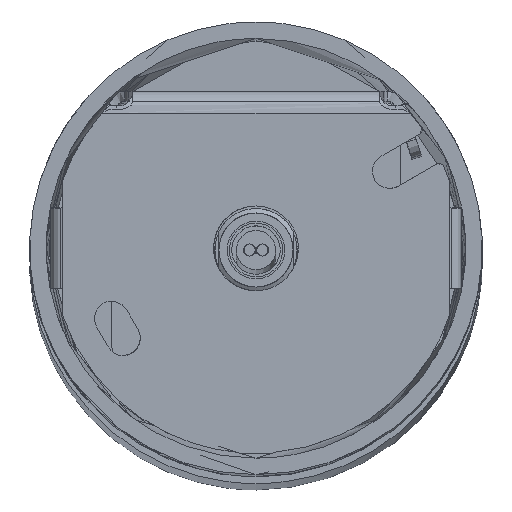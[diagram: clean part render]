
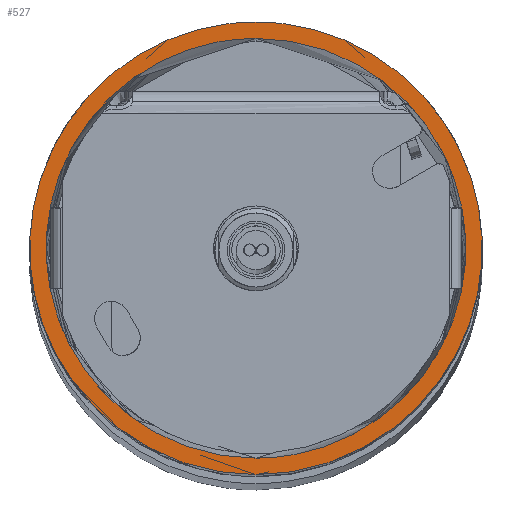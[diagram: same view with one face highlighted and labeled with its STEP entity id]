
A CAD part, top view. The second image highlights one B-rep face of the part: STEP entity #527.
In plain terms, the highlighted planar face has unit normal (0, 0, 1) as drawn and (0, 1, 0) by its records, which use the part's own axes.
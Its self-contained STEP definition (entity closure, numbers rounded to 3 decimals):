
#151=FACE_BOUND('',#1376,.T.);
#527=ADVANCED_FACE('',(#933,#151),#6343,.T.);
#933=FACE_OUTER_BOUND('',#1375,.T.);
#1375=EDGE_LOOP('',(#3285,#3286));
#1376=EDGE_LOOP('',(#3287,#3288));
#3285=ORIENTED_EDGE('',*,*,#4433,.T.);
#3286=ORIENTED_EDGE('',*,*,#4429,.F.);
#3287=ORIENTED_EDGE('',*,*,#4437,.T.);
#3288=ORIENTED_EDGE('',*,*,#4423,.T.);
#4423=EDGE_CURVE('',#6149,#6150,#5499,.T.);
#4429=EDGE_CURVE('',#6153,#6154,#5501,.T.);
#4433=EDGE_CURVE('',#6153,#6154,#5503,.T.);
#4437=EDGE_CURVE('',#6150,#6149,#5505,.T.);
#5499=(
BOUNDED_CURVE()
B_SPLINE_CURVE(2,(#37677,#37678,#37679,#37680,#37681),.UNSPECIFIED.,.F.,
 .F.)
B_SPLINE_CURVE_WITH_KNOTS((3,2,3),(-80.111,-40.055,
0.),.UNSPECIFIED.)
CURVE()
GEOMETRIC_REPRESENTATION_ITEM()
RATIONAL_B_SPLINE_CURVE((1.,0.707,1.,0.707,1.))
REPRESENTATION_ITEM('')
);
#5501=(
BOUNDED_CURVE()
B_SPLINE_CURVE(2,(#37745,#37746,#37747,#37748,#37749),.UNSPECIFIED.,.F.,
 .F.)
B_SPLINE_CURVE_WITH_KNOTS((3,2,3),(0.,43.197,86.394),
 .UNSPECIFIED.)
CURVE()
GEOMETRIC_REPRESENTATION_ITEM()
RATIONAL_B_SPLINE_CURVE((1.,0.707,1.,0.707,1.))
REPRESENTATION_ITEM('')
);
#5503=(
BOUNDED_CURVE()
B_SPLINE_CURVE(2,(#37759,#37760,#37761,#37762,#37763),.UNSPECIFIED.,.F.,
 .F.)
B_SPLINE_CURVE_WITH_KNOTS((3,2,3),(-86.394,-43.197,
0.),.UNSPECIFIED.)
CURVE()
GEOMETRIC_REPRESENTATION_ITEM()
RATIONAL_B_SPLINE_CURVE((1.,0.707,1.,0.707,1.))
REPRESENTATION_ITEM('')
);
#5505=(
BOUNDED_CURVE()
B_SPLINE_CURVE(2,(#37823,#37824,#37825,#37826,#37827),.UNSPECIFIED.,.F.,
 .F.)
B_SPLINE_CURVE_WITH_KNOTS((3,2,3),(-80.111,-40.055,
0.),.UNSPECIFIED.)
CURVE()
GEOMETRIC_REPRESENTATION_ITEM()
RATIONAL_B_SPLINE_CURVE((1.,0.707,1.,0.707,1.))
REPRESENTATION_ITEM('')
);
#6149=VERTEX_POINT('',#37607);
#6150=VERTEX_POINT('',#37608);
#6153=VERTEX_POINT('',#37611);
#6154=VERTEX_POINT('',#37612);
#6343=PLANE('',#6949);
#6949=AXIS2_PLACEMENT_3D('',#37525,#7130,$);
#7130=DIRECTION('',(0.,1.,0.));
#37525=CARTESIAN_POINT('',(-33.,65.,-33.));
#37607=CARTESIAN_POINT('',(0.,65.,25.5));
#37608=CARTESIAN_POINT('',(0.,65.,-25.5));
#37611=CARTESIAN_POINT('',(0.,65.,-27.5));
#37612=CARTESIAN_POINT('',(0.,65.,27.5));
#37677=CARTESIAN_POINT('',(0.,65.,25.5));
#37678=CARTESIAN_POINT('',(-25.5,65.,25.5));
#37679=CARTESIAN_POINT('',(-25.5,65.,0.));
#37680=CARTESIAN_POINT('',(-25.5,65.,-25.5));
#37681=CARTESIAN_POINT('',(0.,65.,-25.5));
#37745=CARTESIAN_POINT('',(0.,65.,-27.5));
#37746=CARTESIAN_POINT('',(27.5,65.,-27.5));
#37747=CARTESIAN_POINT('',(27.5,65.,0.));
#37748=CARTESIAN_POINT('',(27.5,65.,27.5));
#37749=CARTESIAN_POINT('',(0.,65.,27.5));
#37759=CARTESIAN_POINT('',(0.,65.,-27.5));
#37760=CARTESIAN_POINT('',(-27.5,65.,-27.5));
#37761=CARTESIAN_POINT('',(-27.5,65.,0.));
#37762=CARTESIAN_POINT('',(-27.5,65.,27.5));
#37763=CARTESIAN_POINT('',(0.,65.,27.5));
#37823=CARTESIAN_POINT('',(0.,65.,-25.5));
#37824=CARTESIAN_POINT('',(25.5,65.,-25.5));
#37825=CARTESIAN_POINT('',(25.5,65.,0.));
#37826=CARTESIAN_POINT('',(25.5,65.,25.5));
#37827=CARTESIAN_POINT('',(0.,65.,25.5));
